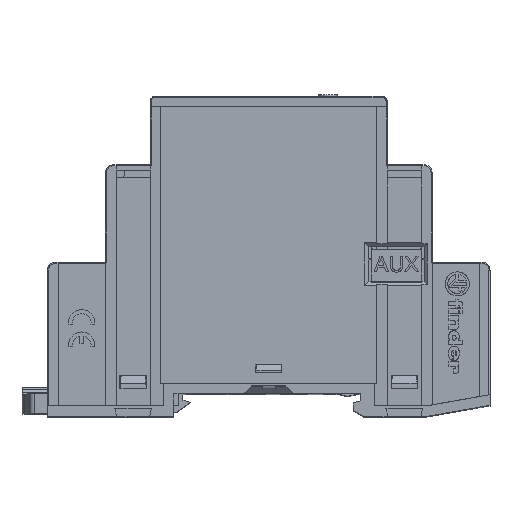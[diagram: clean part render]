
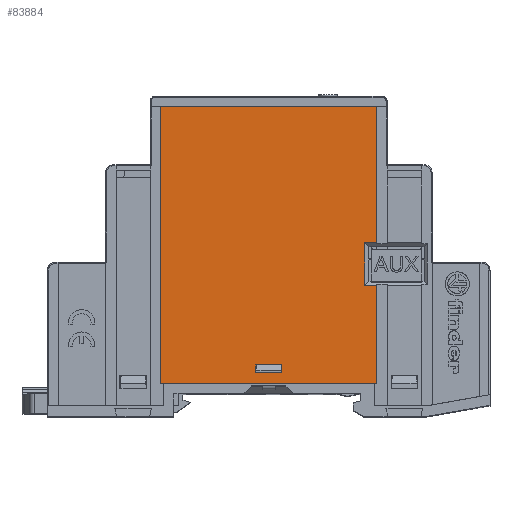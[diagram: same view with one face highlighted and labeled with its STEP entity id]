
A CAD part, top view. The second image highlights one B-rep face of the part: STEP entity #83884.
In plain terms, the highlighted planar face has unit normal (0, 0, 1).
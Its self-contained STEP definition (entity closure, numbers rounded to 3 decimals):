
#10927=LINE('',#146162,#21914);
#10944=LINE('',#146195,#21931);
#10997=LINE('',#146326,#21984);
#11039=LINE('',#146439,#22026);
#11041=LINE('',#146443,#22028);
#11042=LINE('',#146446,#22029);
#11043=LINE('',#146448,#22030);
#11044=LINE('',#146450,#22031);
#11045=LINE('',#146451,#22032);
#11046=LINE('',#146453,#22033);
#11047=LINE('',#146454,#22034);
#11048=LINE('',#146455,#22035);
#21914=VECTOR('',#115956,1000.);
#21931=VECTOR('',#115983,1000.);
#21984=VECTOR('',#116088,1000.);
#22026=VECTOR('',#116150,1000.);
#22028=VECTOR('',#116154,1000.);
#22029=VECTOR('',#116155,1000.);
#22030=VECTOR('',#116156,1000.);
#22031=VECTOR('',#116157,1000.);
#22032=VECTOR('',#116158,1000.);
#22033=VECTOR('',#116159,1000.);
#22034=VECTOR('',#116160,1000.);
#22035=VECTOR('',#116161,1000.);
#26059=PLANE('',#95877);
#46328=ORIENTED_EDGE('',*,*,#59467,.T.);
#46329=ORIENTED_EDGE('',*,*,#59468,.F.);
#46330=ORIENTED_EDGE('',*,*,#59469,.F.);
#46331=ORIENTED_EDGE('',*,*,#59470,.F.);
#46332=ORIENTED_EDGE('',*,*,#59465,.F.);
#46333=ORIENTED_EDGE('',*,*,#59471,.F.);
#46334=ORIENTED_EDGE('',*,*,#59472,.F.);
#46335=ORIENTED_EDGE('',*,*,#59338,.F.);
#46336=ORIENTED_EDGE('',*,*,#59355,.F.);
#46337=ORIENTED_EDGE('',*,*,#59473,.F.);
#46338=ORIENTED_EDGE('',*,*,#59420,.T.);
#46339=ORIENTED_EDGE('',*,*,#59474,.F.);
#59338=EDGE_CURVE('',#68751,#68752,#10927,.T.);
#59355=EDGE_CURVE('',#68763,#68751,#10944,.T.);
#59420=EDGE_CURVE('',#68815,#68814,#10997,.T.);
#59465=EDGE_CURVE('',#68845,#68846,#11039,.T.);
#59467=EDGE_CURVE('',#68847,#68848,#11041,.T.);
#59468=EDGE_CURVE('',#68849,#68848,#11042,.T.);
#59469=EDGE_CURVE('',#68850,#68849,#11043,.T.);
#59470=EDGE_CURVE('',#68847,#68850,#11044,.T.);
#59471=EDGE_CURVE('',#68851,#68845,#11045,.T.);
#59472=EDGE_CURVE('',#68752,#68851,#11046,.T.);
#59473=EDGE_CURVE('',#68815,#68763,#11047,.T.);
#59474=EDGE_CURVE('',#68846,#68814,#11048,.T.);
#68751=VERTEX_POINT('',#146161);
#68752=VERTEX_POINT('',#146163);
#68763=VERTEX_POINT('',#146196);
#68814=VERTEX_POINT('',#146325);
#68815=VERTEX_POINT('',#146327);
#68845=VERTEX_POINT('',#146438);
#68846=VERTEX_POINT('',#146440);
#68847=VERTEX_POINT('',#146444);
#68848=VERTEX_POINT('',#146445);
#68849=VERTEX_POINT('',#146447);
#68850=VERTEX_POINT('',#146449);
#68851=VERTEX_POINT('',#146452);
#75319=EDGE_LOOP('',(#46328,#46329,#46330,#46331));
#75320=EDGE_LOOP('',(#46332,#46333,#46334,#46335,#46336,#46337,#46338,#46339));
#79816=FACE_BOUND('',#75319,.T.);
#79817=FACE_BOUND('',#75320,.T.);
#83884=ADVANCED_FACE('',(#79816,#79817),#26059,.T.);
#95877=AXIS2_PLACEMENT_3D('',#146442,#116152,#116153);
#115956=DIRECTION('',(-1.,0.,0.));
#115983=DIRECTION('',(0.,-1.,0.));
#116088=DIRECTION('',(0.,-1.,0.));
#116150=DIRECTION('',(0.,-1.,0.));
#116152=DIRECTION('',(0.,0.,1.));
#116153=DIRECTION('',(1.,0.,0.));
#116154=DIRECTION('',(0.,-1.,0.));
#116155=DIRECTION('',(1.,0.,0.));
#116156=DIRECTION('',(0.,-1.,0.));
#116157=DIRECTION('',(-1.,0.,0.));
#116158=DIRECTION('',(1.,0.,0.));
#116159=DIRECTION('',(0.,-1.,0.));
#116160=DIRECTION('',(1.,0.,0.));
#116161=DIRECTION('',(-1.,0.,0.));
#146161=CARTESIAN_POINT('',(20.5,-20.3,-100.));
#146162=CARTESIAN_POINT('',(-20.501,-20.3,-100.));
#146163=CARTESIAN_POINT('',(18.2,-20.3,-100.));
#146195=CARTESIAN_POINT('',(20.5,5.5,-100.));
#146196=CARTESIAN_POINT('',(20.5,5.5,-100.));
#146325=CARTESIAN_POINT('',(-20.5,-47.,-100.));
#146326=CARTESIAN_POINT('',(-20.5,5.5,-100.));
#146327=CARTESIAN_POINT('',(-20.5,5.5,-100.));
#146438=CARTESIAN_POINT('',(20.5,-28.4,-100.));
#146439=CARTESIAN_POINT('',(20.5,5.5,-100.));
#146440=CARTESIAN_POINT('',(20.5,-47.,-100.));
#146442=CARTESIAN_POINT('',(-20.501,-47.001,-100.));
#146443=CARTESIAN_POINT('',(2.5,-43.5,-100.));
#146444=CARTESIAN_POINT('',(2.5,-43.5,-100.));
#146445=CARTESIAN_POINT('',(2.5,-45.,-100.));
#146446=CARTESIAN_POINT('',(-2.5,-45.,-100.));
#146447=CARTESIAN_POINT('',(-2.5,-45.,-100.));
#146448=CARTESIAN_POINT('',(-2.5,-43.5,-100.));
#146449=CARTESIAN_POINT('',(-2.5,-43.5,-100.));
#146450=CARTESIAN_POINT('',(2.5,-43.5,-100.));
#146451=CARTESIAN_POINT('',(-20.501,-28.4,-100.));
#146452=CARTESIAN_POINT('',(18.2,-28.4,-100.));
#146453=CARTESIAN_POINT('',(18.2,-47.001,-100.));
#146454=CARTESIAN_POINT('',(-20.5,5.5,-100.));
#146455=CARTESIAN_POINT('',(20.5,-47.,-100.));
